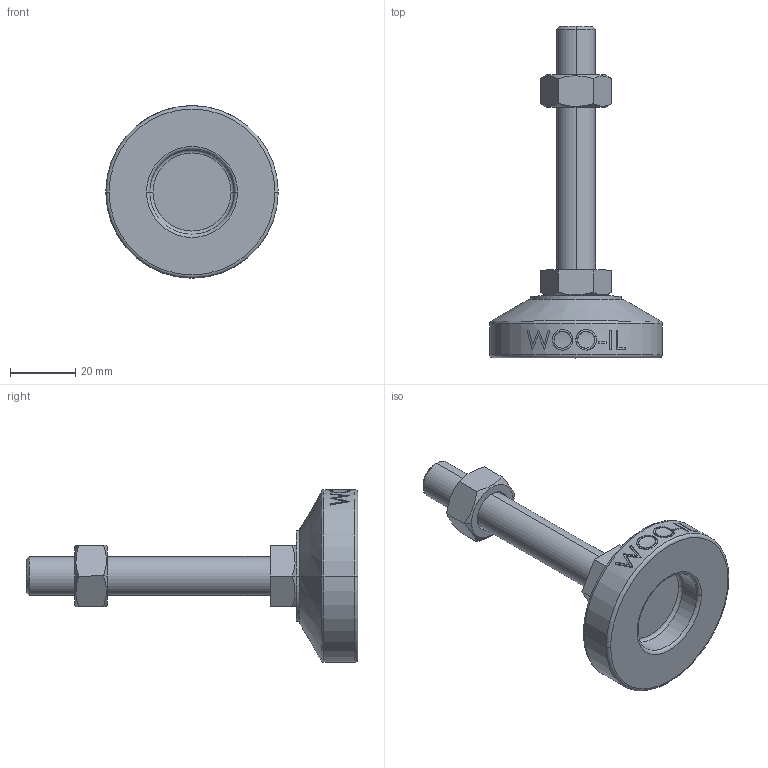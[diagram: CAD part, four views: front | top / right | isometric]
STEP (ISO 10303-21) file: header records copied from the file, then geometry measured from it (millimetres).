
FILE_DESCRIPTION (( 'STEP AP214' ), '1' );
FILE_NAME ('MFZ53-M12-75.step', '2021-01-15T07:04:15', ( '' ), ( '' ), 'SwSTEP 2.0', 'SolidWorks 2019', '' );
FILE_SCHEMA (( 'AUTOMOTIVE_DESIGN' ));
Length unit declared in the file: millimetre
Products named in the file (2): MFZ53-M12-75
Bounding box: 53 x 102 x 53 mm (x, y, z)
Volume: 42976.2 mm3; surface area: 12376.8 mm2
Topology: 3 solids, 3 shells, 106 faces, 243 edges, 154 vertices
Faces by surface type: plane 48, cylinder 18, bspline 16, cone 14, torus 10
Entity records: 4508 total; most frequent: CARTESIAN_POINT 2165, ORIENTED_EDGE 486, DIRECTION 439, EDGE_CURVE 243, AXIS2_PLACEMENT_3D 170, VERTEX_POINT 154, EDGE_LOOP 119, ADVANCED_FACE 106
